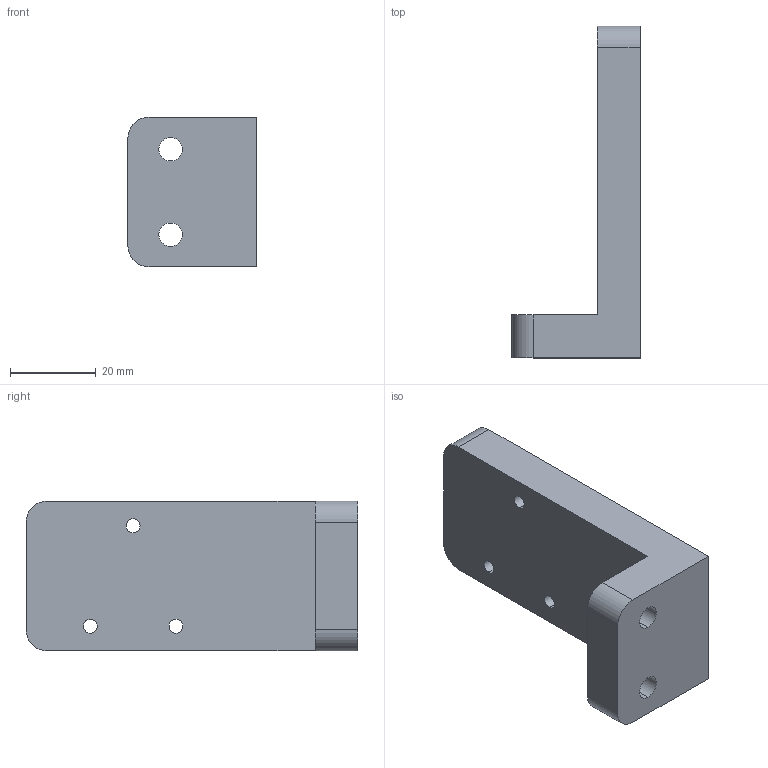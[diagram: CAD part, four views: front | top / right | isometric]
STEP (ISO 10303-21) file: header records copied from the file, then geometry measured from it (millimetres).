
FILE_DESCRIPTION (( 'STEP AP214' ), '1' );
FILE_NAME ('GZ30.02_V1手控阀支架.STEP', '2022-01-06T05:28:37', ( '微软中国' ), ( 'Microsoft' ), 'SwSTEP 2.0', 'SolidWorks 2018', '' );
FILE_SCHEMA (( 'AUTOMOTIVE_DESIGN' ));
Length unit declared in the file: millimetre
Products named in the file (1): GZ30.02_V1忒諷概盓殤
Bounding box: 30 x 77.5 x 35 mm (x, y, z)
Volume: 33187.6 mm3; surface area: 9852.8 mm2
Topology: 1 solids, 1 shells, 22 faces, 60 edges, 40 vertices
Faces by surface type: cylinder 14, plane 8
Entity records: 832 total; most frequent: DIRECTION 134, CARTESIAN_POINT 123, ORIENTED_EDGE 120, EDGE_CURVE 60, AXIS2_PLACEMENT_3D 51, VERTEX_POINT 40, VECTOR 32, EDGE_LOOP 32
